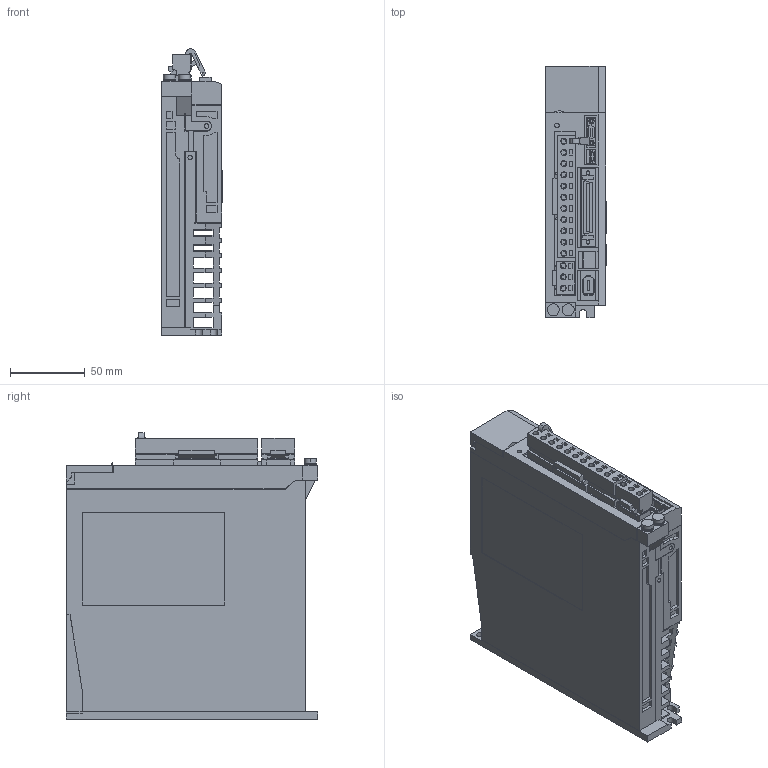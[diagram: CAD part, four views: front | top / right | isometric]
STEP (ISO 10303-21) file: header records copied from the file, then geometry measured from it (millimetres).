
FILE_DESCRIPTION (( 'STEP AP203' ), '1' );
FILE_NAME ('sgd7s_r70f00a.STEP', '2016-11-11T00:24:54', ( '匠エンジニアリング山之内' ), ( 'TAKUMI-Engniaring' ), 'SwSTEP 2.0', 'SolidWorks 2006303', '' );
FILE_SCHEMA (( 'CONFIG_CONTROL_DESIGN' ));
Products named in the file (9): sgd7s_r70f00a_connector_1; sgd7s_r70f00a_cover; sgd7s_r70f00a; sgd7s_r70f00a_base; sgd7s_r70f00a_connector; sgd7s_r70f00a_connector_2; sgd7s_r70f00a_pin; sgd7s_r70f00a_cover2; sgd7s_r70f00a_connector_3
Assembly tree (9 placements, depth 3):
  sgd7s_r70f00a
    sgd7s_r70f00a_connector_1
    sgd7s_r70f00a_connector
      sgd7s_r70f00a_connector_2
      sgd7s_r70f00a_pin
    sgd7s_r70f00a_cover
    sgd7s_r70f00a_connector_3
    sgd7s_r70f00a_cover2  x2
    sgd7s_r70f00a_base
Bounding box: 40.5 x 168 x 191.83 mm (x, y, z)
Volume: 935528.8 mm3; surface area: 169323.7 mm2
Topology: 8 solids, 8 shells, 1671 faces, 4412 edges, 2912 vertices
Faces by surface type: plane 1465, cylinder 201, cone 4, sphere 1
Entity records: 51267 total; most frequent: CARTESIAN_POINT 8897, ORIENTED_EDGE 8716, DIRECTION 8094, EDGE_CURVE 4358, VECTOR 3948, LINE 3948, VERTEX_POINT 2876, AXIS2_PLACEMENT_3D 2073
